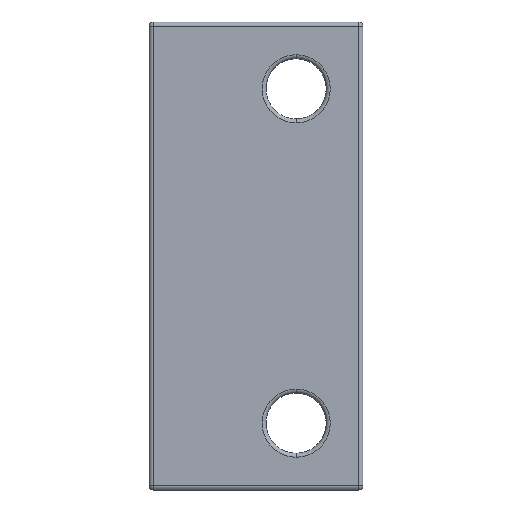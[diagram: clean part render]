
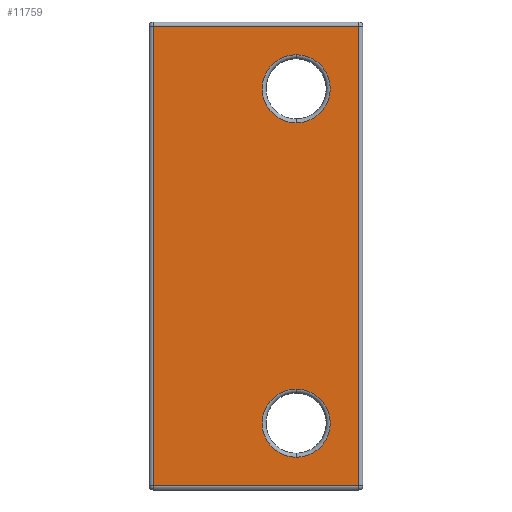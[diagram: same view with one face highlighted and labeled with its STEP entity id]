
A CAD part, front view. The second image highlights one B-rep face of the part: STEP entity #11759.
In plain terms, the highlighted planar face has unit normal (0, -1, 0).
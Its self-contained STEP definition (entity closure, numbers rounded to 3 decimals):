
#150 = AXIS2_PLACEMENT_3D ( 'NONE', #5081, #9026, #11958 ) ;
#257 = CARTESIAN_POINT ( 'NONE',  ( 0., 0., 0.3 ) ) ;
#505 = AXIS2_PLACEMENT_3D ( 'NONE', #2582, #599, #11552 ) ;
#599 = DIRECTION ( 'NONE',  ( 0., 1., 0. ) ) ;
#1190 = DIRECTION ( 'NONE',  ( 0., 0., 1. ) ) ;
#1208 = VERTEX_POINT ( 'NONE', #1486 ) ;
#1486 = CARTESIAN_POINT ( 'NONE',  ( 15.7, 0., 34.7 ) ) ;
#1500 = CARTESIAN_POINT ( 'NONE',  ( 0.3, 0., 0. ) ) ;
#1789 = EDGE_CURVE ( 'NONE', #9250, #5039, #5573, .T. ) ;
#1796 = CARTESIAN_POINT ( 'NONE',  ( 0., 0., 35. ) ) ;
#1799 = VECTOR ( 'NONE', #10415, 1000. ) ;
#2021 = EDGE_LOOP ( 'NONE', ( #10585, #6693, #9600, #8298 ) ) ;
#2288 = LINE ( 'NONE', #257, #5158 ) ;
#2311 = EDGE_LOOP ( 'NONE', ( #9394, #7009 ) ) ;
#2345 = CIRCLE ( 'NONE', #505, 2.55 ) ;
#2554 = CIRCLE ( 'NONE', #12409, 2.55 ) ;
#2582 = CARTESIAN_POINT ( 'NONE',  ( 11., 0., 5. ) ) ;
#2652 = CARTESIAN_POINT ( 'NONE',  ( 0., 0., 34.7 ) ) ;
#2992 = VECTOR ( 'NONE', #12446, 1000. ) ;
#3409 = CARTESIAN_POINT ( 'NONE',  ( 15.7, 0., 35. ) ) ;
#3878 = DIRECTION ( 'NONE',  ( 0., 0., 1. ) ) ;
#4035 = FACE_OUTER_BOUND ( 'NONE', #2021, .T. ) ;
#4269 = LINE ( 'NONE', #3409, #2992 ) ;
#4579 = CARTESIAN_POINT ( 'NONE',  ( 0.3, 0., 34.7 ) ) ;
#5039 = VERTEX_POINT ( 'NONE', #9230 ) ;
#5081 = CARTESIAN_POINT ( 'NONE',  ( 11., 0., 30. ) ) ;
#5158 = VECTOR ( 'NONE', #9236, 1000. ) ;
#5290 = EDGE_CURVE ( 'NONE', #6742, #12142, #12448, .T. ) ;
#5573 = LINE ( 'NONE', #1500, #1799 ) ;
#5935 = CIRCLE ( 'NONE', #150, 2.55 ) ;
#6255 = EDGE_CURVE ( 'NONE', #6441, #9569, #2345, .T. ) ;
#6372 = AXIS2_PLACEMENT_3D ( 'NONE', #6493, #9513, #6455 ) ;
#6441 = VERTEX_POINT ( 'NONE', #10737 ) ;
#6455 = DIRECTION ( 'NONE',  ( 0., 0., 1. ) ) ;
#6493 = CARTESIAN_POINT ( 'NONE',  ( 11., 0., 30. ) ) ;
#6693 = ORIENTED_EDGE ( 'NONE', *, *, #1789, .T. ) ;
#6742 = VERTEX_POINT ( 'NONE', #7268 ) ;
#6871 = PLANE ( 'NONE',  #9762 ) ;
#7009 = ORIENTED_EDGE ( 'NONE', *, *, #9035, .T. ) ;
#7048 = DIRECTION ( 'NONE',  ( 0., 1., 0. ) ) ;
#7268 = CARTESIAN_POINT ( 'NONE',  ( 11., 0., 32.55 ) ) ;
#7763 = EDGE_CURVE ( 'NONE', #1208, #9250, #10464, .T. ) ;
#8236 = FACE_BOUND ( 'NONE', #10828, .T. ) ;
#8298 = ORIENTED_EDGE ( 'NONE', *, *, #10132, .T. ) ;
#8677 = CARTESIAN_POINT ( 'NONE',  ( 15.7, 0., 0.3 ) ) ;
#9026 = DIRECTION ( 'NONE',  ( 0., 1., 0. ) ) ;
#9035 = EDGE_CURVE ( 'NONE', #9569, #6441, #2554, .T. ) ;
#9230 = CARTESIAN_POINT ( 'NONE',  ( 0.3, 0., 0.3 ) ) ;
#9236 = DIRECTION ( 'NONE',  ( 1., 0., 0. ) ) ;
#9250 = VERTEX_POINT ( 'NONE', #4579 ) ;
#9304 = FACE_BOUND ( 'NONE', #2311, .T. ) ;
#9394 = ORIENTED_EDGE ( 'NONE', *, *, #6255, .T. ) ;
#9400 = VERTEX_POINT ( 'NONE', #8677 ) ;
#9513 = DIRECTION ( 'NONE',  ( 0., 1., 0. ) ) ;
#9569 = VERTEX_POINT ( 'NONE', #12537 ) ;
#9590 = ORIENTED_EDGE ( 'NONE', *, *, #5290, .T. ) ;
#9600 = ORIENTED_EDGE ( 'NONE', *, *, #12839, .T. ) ;
#9762 = AXIS2_PLACEMENT_3D ( 'NONE', #1796, #11718, #3878 ) ;
#10132 = EDGE_CURVE ( 'NONE', #9400, #1208, #4269, .T. ) ;
#10192 = CARTESIAN_POINT ( 'NONE',  ( 11., 0., 27.45 ) ) ;
#10415 = DIRECTION ( 'NONE',  ( 0., 0., -1. ) ) ;
#10464 = LINE ( 'NONE', #2652, #12171 ) ;
#10489 = DIRECTION ( 'NONE',  ( -1., 0., 0. ) ) ;
#10585 = ORIENTED_EDGE ( 'NONE', *, *, #7763, .T. ) ;
#10737 = CARTESIAN_POINT ( 'NONE',  ( 11., 0., 7.55 ) ) ;
#10828 = EDGE_LOOP ( 'NONE', ( #9590, #12216 ) ) ;
#11552 = DIRECTION ( 'NONE',  ( 0., 0., 1. ) ) ;
#11718 = DIRECTION ( 'NONE',  ( 0., 1., 0. ) ) ;
#11759 = ADVANCED_FACE ( 'NONE', ( #8236, #9304, #4035 ), #6871, .F. ) ;
#11958 = DIRECTION ( 'NONE',  ( 0., 0., 1. ) ) ;
#12142 = VERTEX_POINT ( 'NONE', #10192 ) ;
#12149 = CARTESIAN_POINT ( 'NONE',  ( 11., 0., 5. ) ) ;
#12171 = VECTOR ( 'NONE', #10489, 1000. ) ;
#12216 = ORIENTED_EDGE ( 'NONE', *, *, #12803, .T. ) ;
#12409 = AXIS2_PLACEMENT_3D ( 'NONE', #12149, #7048, #1190 ) ;
#12446 = DIRECTION ( 'NONE',  ( 0., 0., 1. ) ) ;
#12448 = CIRCLE ( 'NONE', #6372, 2.55 ) ;
#12537 = CARTESIAN_POINT ( 'NONE',  ( 11., 0., 2.45 ) ) ;
#12803 = EDGE_CURVE ( 'NONE', #12142, #6742, #5935, .T. ) ;
#12839 = EDGE_CURVE ( 'NONE', #5039, #9400, #2288, .T. ) ;
